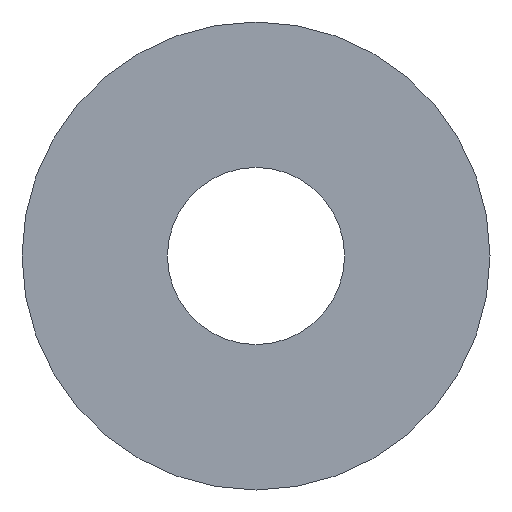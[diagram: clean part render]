
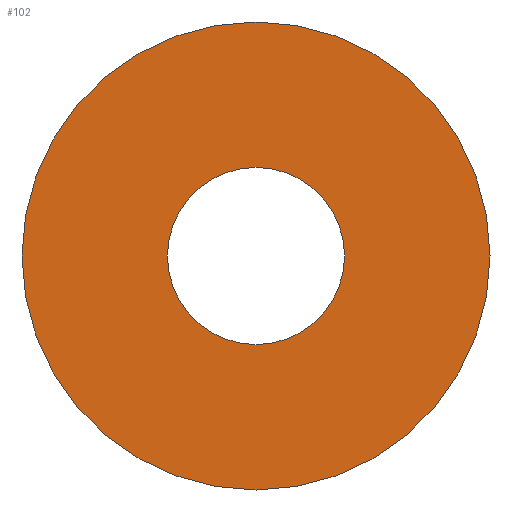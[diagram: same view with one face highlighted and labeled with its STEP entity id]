
A CAD part, front view. The second image highlights one B-rep face of the part: STEP entity #102.
In plain terms, the highlighted planar face has unit normal (0, -1, 0).
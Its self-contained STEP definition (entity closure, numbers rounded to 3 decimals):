
#9 = PLANE ( 'NONE',  #205 ) ;
#10 = CARTESIAN_POINT ( 'NONE',  ( 0., 0., 0. ) ) ;
#12 = EDGE_LOOP ( 'NONE', ( #189, #164 ) ) ;
#14 = EDGE_CURVE ( 'NONE', #247, #116, #137, .T. ) ;
#28 = DIRECTION ( 'NONE',  ( 0., 1., 0. ) ) ;
#34 = CARTESIAN_POINT ( 'NONE',  ( 0., 0., -354.1 ) ) ;
#36 = CARTESIAN_POINT ( 'NONE',  ( 0., 0., 354.1 ) ) ;
#38 = ORIENTED_EDGE ( 'NONE', *, *, #162, .T. ) ;
#43 = FACE_OUTER_BOUND ( 'NONE', #12, .T. ) ;
#51 = CIRCLE ( 'NONE', #208, 134. ) ;
#53 = DIRECTION ( 'NONE',  ( 0., 0., 1. ) ) ;
#69 = DIRECTION ( 'NONE',  ( 0., 0., 1. ) ) ;
#80 = EDGE_LOOP ( 'NONE', ( #38, #191 ) ) ;
#81 = DIRECTION ( 'NONE',  ( 0., 1., 0. ) ) ;
#87 = DIRECTION ( 'NONE',  ( 0., 0., 1. ) ) ;
#88 = CIRCLE ( 'NONE', #117, 354.1 ) ;
#90 = CARTESIAN_POINT ( 'NONE',  ( 0., 0., 0. ) ) ;
#91 = DIRECTION ( 'NONE',  ( 0., 1., 0. ) ) ;
#102 = ADVANCED_FACE ( 'NONE', ( #43, #167 ), #9, .F. ) ;
#106 = DIRECTION ( 'NONE',  ( 0., 0., 1. ) ) ;
#116 = VERTEX_POINT ( 'NONE', #246 ) ;
#117 = AXIS2_PLACEMENT_3D ( 'NONE', #212, #135, #69 ) ;
#135 = DIRECTION ( 'NONE',  ( 0., 1., 0. ) ) ;
#137 = CIRCLE ( 'NONE', #158, 134. ) ;
#143 = VERTEX_POINT ( 'NONE', #36 ) ;
#148 = CARTESIAN_POINT ( 'NONE',  ( 0., 0., 0. ) ) ;
#149 = DIRECTION ( 'NONE',  ( 0., 0., 1. ) ) ;
#155 = CARTESIAN_POINT ( 'NONE',  ( 0., 0., 0. ) ) ;
#158 = AXIS2_PLACEMENT_3D ( 'NONE', #148, #28, #106 ) ;
#162 = EDGE_CURVE ( 'NONE', #116, #247, #51, .T. ) ;
#164 = ORIENTED_EDGE ( 'NONE', *, *, #218, .F. ) ;
#167 = FACE_BOUND ( 'NONE', #80, .T. ) ;
#171 = EDGE_CURVE ( 'NONE', #203, #143, #88, .T. ) ;
#183 = CIRCLE ( 'NONE', #225, 354.1 ) ;
#189 = ORIENTED_EDGE ( 'NONE', *, *, #171, .F. ) ;
#191 = ORIENTED_EDGE ( 'NONE', *, *, #14, .T. ) ;
#196 = DIRECTION ( 'NONE',  ( 0., 1., 0. ) ) ;
#203 = VERTEX_POINT ( 'NONE', #34 ) ;
#205 = AXIS2_PLACEMENT_3D ( 'NONE', #10, #81, #149 ) ;
#208 = AXIS2_PLACEMENT_3D ( 'NONE', #90, #196, #53 ) ;
#212 = CARTESIAN_POINT ( 'NONE',  ( 0., 0., 0. ) ) ;
#216 = CARTESIAN_POINT ( 'NONE',  ( 0., 0., 134. ) ) ;
#218 = EDGE_CURVE ( 'NONE', #143, #203, #183, .T. ) ;
#225 = AXIS2_PLACEMENT_3D ( 'NONE', #155, #91, #87 ) ;
#246 = CARTESIAN_POINT ( 'NONE',  ( 0., 0., -134. ) ) ;
#247 = VERTEX_POINT ( 'NONE', #216 ) ;
